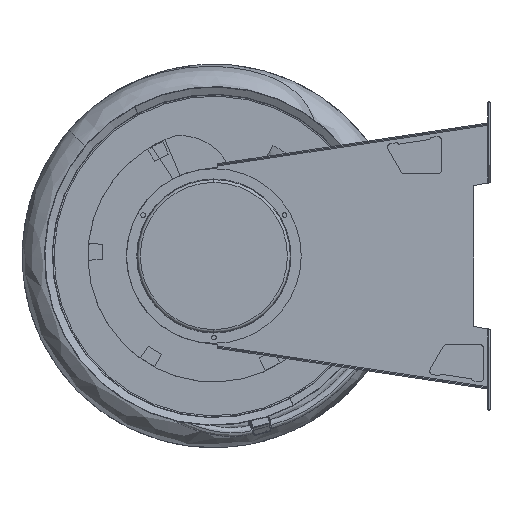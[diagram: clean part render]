
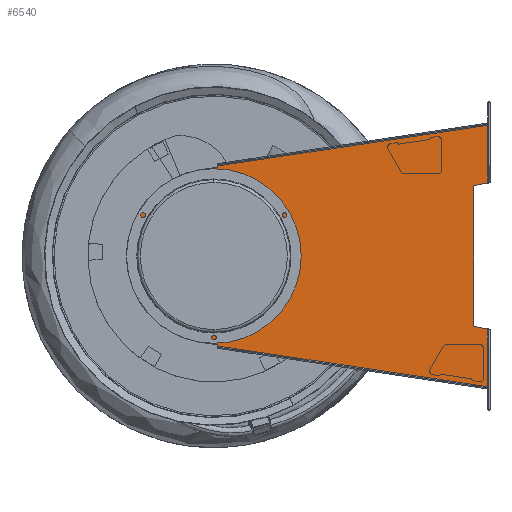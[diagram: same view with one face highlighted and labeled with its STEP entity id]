
A CAD part, left-side view. The second image highlights one B-rep face of the part: STEP entity #6540.
In plain terms, the highlighted planar face has unit normal (-1, 0, 0) as drawn and (1, 0, 0) by its records, which use the part's own axes.
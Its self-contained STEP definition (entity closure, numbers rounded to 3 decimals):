
#4440=DIRECTION('',(0.,0.,-1.));
#4441=VECTOR('',#4440,250.);
#4442=CARTESIAN_POINT('',(2.,-461.142,125.));
#4443=LINE('',#4442,#4441);
#4468=CARTESIAN_POINT('',(2.,0.,0.));
#4469=DIRECTION('',(-1.,0.,0.));
#4470=DIRECTION('',(0.,-1.,0.));
#4471=AXIS2_PLACEMENT_3D('',#4468,#4469,#4470);
#4476=CARTESIAN_POINT('',(2.,0.,0.));
#4477=DIRECTION('',(1.,0.,0.));
#4478=DIRECTION('',(0.,-1.,0.));
#4479=AXIS2_PLACEMENT_3D('',#4476,#4477,#4478);
#4484=DIRECTION('',(0.,-0.989,-0.149));
#4485=VECTOR('',#4484,3.105);
#4486=CARTESIAN_POINT('',(2.,23.07,-153.273));
#4487=LINE('',#4486,#4485);
#4491=DIRECTION('',(0.,-0.989,-0.149));
#4492=VECTOR('',#4491,6.895);
#4493=CARTESIAN_POINT('',(2.,20.,-153.736));
#4494=LINE('',#4493,#4492);
#4498=DIRECTION('',(0.,-0.989,-0.149));
#4499=VECTOR('',#4498,20.342);
#4500=CARTESIAN_POINT('',(2.,13.182,-154.762));
#4501=LINE('',#4500,#4499);
#4505=CARTESIAN_POINT('',(2.,-21.767,-160.022));
#4506=DIRECTION('',(-1.,0.,0.));
#4507=DIRECTION('',(0.,0.989,0.149));
#4508=AXIS2_PLACEMENT_3D('',#4505,#4506,#4507);
#4513=DIRECTION('',(0.,0.989,0.149));
#4514=VECTOR('',#4513,3.853);
#4515=CARTESIAN_POINT('',(2.,-486.,-231.92));
#4516=LINE('',#4515,#4514);
#4520=DIRECTION('',(0.,0.985,0.174));
#4521=VECTOR('',#4520,25.242);
#4522=CARTESIAN_POINT('',(2.,-486.,-129.383));
#4523=LINE('',#4522,#4521);
#4527=DIRECTION('',(0.,0.985,-0.174));
#4528=VECTOR('',#4527,25.242);
#4529=CARTESIAN_POINT('',(2.,-486.,129.383));
#4530=LINE('',#4529,#4528);
#4534=DIRECTION('',(0.,0.989,-0.149));
#4535=VECTOR('',#4534,3.853);
#4536=CARTESIAN_POINT('',(2.,-486.,231.92));
#4537=LINE('',#4536,#4535);
#4541=CARTESIAN_POINT('',(2.,-21.767,160.022));
#4542=DIRECTION('',(1.,0.,0.));
#4543=DIRECTION('',(0.,0.989,-0.149));
#4544=AXIS2_PLACEMENT_3D('',#4541,#4542,#4543);
#4549=DIRECTION('',(0.,-0.989,0.149));
#4550=VECTOR('',#4549,20.342);
#4551=CARTESIAN_POINT('',(2.,13.182,154.762));
#4552=LINE('',#4551,#4550);
#4556=DIRECTION('',(0.,-0.989,0.149));
#4557=VECTOR('',#4556,6.895);
#4558=CARTESIAN_POINT('',(2.,20.,153.736));
#4559=LINE('',#4558,#4557);
#4563=DIRECTION('',(0.,-0.989,0.149));
#4564=VECTOR('',#4563,3.105);
#4565=CARTESIAN_POINT('',(2.,23.07,153.273));
#4566=LINE('',#4565,#4564);
#4592=CARTESIAN_POINT('',(2.,0.,0.));
#4593=DIRECTION('',(1.,0.,0.));
#4594=DIRECTION('',(0.,0.149,-0.989));
#4595=AXIS2_PLACEMENT_3D('',#4592,#4593,#4594);
#4852=CARTESIAN_POINT('',(2.,-6.769,-159.787));
#4876=DIRECTION('',(0.,-0.989,-0.149));
#4877=VECTOR('',#4876,480.777);
#4878=CARTESIAN_POINT('',(2.,-6.769,-159.787));
#4879=LINE('',#4878,#4877);
#4978=DIRECTION('',(0.,0.,1.));
#4979=VECTOR('',#4978,102.537);
#4980=CARTESIAN_POINT('',(2.,-486.,-231.92));
#4981=LINE('',#4980,#4979);
#5542=CARTESIAN_POINT('',(2.,-6.769,159.787));
#5559=DIRECTION('',(0.,-0.989,0.149));
#5560=VECTOR('',#5559,480.777);
#5561=CARTESIAN_POINT('',(2.,-6.769,159.787));
#5562=LINE('',#5561,#5560);
#5756=DIRECTION('',(0.,0.,-1.));
#5757=VECTOR('',#5756,102.537);
#5758=CARTESIAN_POINT('',(2.,-486.,231.92));
#5759=LINE('',#5758,#5757);
#6156=CARTESIAN_POINT('',(2.,-33.,0.));
#6157=CARTESIAN_POINT('',(2.,33.,0.));
#6158=VERTEX_POINT('',#6156);
#6159=VERTEX_POINT('',#6157);
#6161=CARTESIAN_POINT('',(2.,23.07,153.273));
#6163=VERTEX_POINT('',#6161);
#6180=CARTESIAN_POINT('',(2.,-486.,231.92));
#6181=CARTESIAN_POINT('',(2.,-482.19,231.347));
#6182=VERTEX_POINT('',#6180);
#6183=VERTEX_POINT('',#6181);
#6234=CARTESIAN_POINT('',(2.,-486.,129.383));
#6235=VERTEX_POINT('',#6234);
#6237=CARTESIAN_POINT('',(2.,23.07,-153.273));
#6239=VERTEX_POINT('',#6237);
#6256=CARTESIAN_POINT('',(2.,-486.,-231.92));
#6257=CARTESIAN_POINT('',(2.,-482.19,-231.347));
#6258=VERTEX_POINT('',#6256);
#6259=VERTEX_POINT('',#6257);
#6297=CARTESIAN_POINT('',(2.,-486.,-129.383));
#6298=VERTEX_POINT('',#6297);
#6303=CARTESIAN_POINT('',(2.,-461.142,125.));
#6304=VERTEX_POINT('',#6303);
#6309=CARTESIAN_POINT('',(2.,-461.142,-125.));
#6310=VERTEX_POINT('',#6309);
#6319=CARTESIAN_POINT('',(2.,20.,153.736));
#6320=CARTESIAN_POINT('',(2.,13.182,154.762));
#6321=VERTEX_POINT('',#6319);
#6322=VERTEX_POINT('',#6320);
#6328=VERTEX_POINT('',#5542);
#6337=CARTESIAN_POINT('',(2.,20.,-153.736));
#6338=CARTESIAN_POINT('',(2.,13.182,-154.762));
#6339=VERTEX_POINT('',#6337);
#6340=VERTEX_POINT('',#6338);
#6346=VERTEX_POINT('',#4852);
#6365=CARTESIAN_POINT('',(2.,-6.934,157.79));
#6366=VERTEX_POINT('',#6365);
#6369=CARTESIAN_POINT('',(2.,-6.934,-157.79));
#6370=VERTEX_POINT('',#6369);
#6492=CARTESIAN_POINT('',(2.,0.,0.));
#6493=DIRECTION('',(1.,0.,0.));
#6494=DIRECTION('',(0.,0.,-1.));
#6495=AXIS2_PLACEMENT_3D('',#6492,#6493,#6494);
#6496=PLANE('',#6495);
#6498=ORIENTED_EDGE('',*,*,#6497,.F.);
#6500=ORIENTED_EDGE('',*,*,#6499,.T.);
#6502=ORIENTED_EDGE('',*,*,#6501,.T.);
#6504=ORIENTED_EDGE('',*,*,#6503,.T.);
#6506=ORIENTED_EDGE('',*,*,#6505,.T.);
#6508=ORIENTED_EDGE('',*,*,#6507,.T.);
#6510=ORIENTED_EDGE('',*,*,#6509,.F.);
#6512=ORIENTED_EDGE('',*,*,#6511,.T.);
#6514=ORIENTED_EDGE('',*,*,#6513,.T.);
#6515=ORIENTED_EDGE('',*,*,#6482,.F.);
#6517=ORIENTED_EDGE('',*,*,#6516,.F.);
#6519=ORIENTED_EDGE('',*,*,#6518,.F.);
#6521=ORIENTED_EDGE('',*,*,#6520,.T.);
#6523=ORIENTED_EDGE('',*,*,#6522,.F.);
#6525=ORIENTED_EDGE('',*,*,#6524,.F.);
#6527=ORIENTED_EDGE('',*,*,#6526,.F.);
#6529=ORIENTED_EDGE('',*,*,#6528,.F.);
#6531=ORIENTED_EDGE('',*,*,#6530,.F.);
#6532=EDGE_LOOP('',(#6498,#6500,#6502,#6504,#6506,#6508,#6510,#6512,#6514,#6515,
#6517,#6519,#6521,#6523,#6525,#6527,#6529,#6531));
#6533=FACE_OUTER_BOUND('',#6532,.F.);
#6535=ORIENTED_EDGE('',*,*,#6534,.F.);
#6537=ORIENTED_EDGE('',*,*,#6536,.T.);
#6538=EDGE_LOOP('',(#6535,#6537));
#6539=FACE_BOUND('',#6538,.F.);
#4472=CIRCLE('',#4471,33.);
#4480=CIRCLE('',#4479,33.);
#4509=CIRCLE('',#4508,15.);
#4545=CIRCLE('',#4544,15.);
#4596=CIRCLE('',#4595,155.);
#6482=EDGE_CURVE('',#6304,#6310,#4443,.T.);
#6497=EDGE_CURVE('',#6239,#6163,#4596,.T.);
#6499=EDGE_CURVE('',#6239,#6339,#4487,.T.);
#6501=EDGE_CURVE('',#6339,#6340,#4494,.T.);
#6503=EDGE_CURVE('',#6340,#6370,#4501,.T.);
#6505=EDGE_CURVE('',#6370,#6346,#4509,.T.);
#6507=EDGE_CURVE('',#6346,#6259,#4879,.T.);
#6509=EDGE_CURVE('',#6258,#6259,#4516,.T.);
#6511=EDGE_CURVE('',#6258,#6298,#4981,.T.);
#6513=EDGE_CURVE('',#6298,#6310,#4523,.T.);
#6516=EDGE_CURVE('',#6235,#6304,#4530,.T.);
#6518=EDGE_CURVE('',#6182,#6235,#5759,.T.);
#6520=EDGE_CURVE('',#6182,#6183,#4537,.T.);
#6522=EDGE_CURVE('',#6328,#6183,#5562,.T.);
#6524=EDGE_CURVE('',#6366,#6328,#4545,.T.);
#6526=EDGE_CURVE('',#6322,#6366,#4552,.T.);
#6528=EDGE_CURVE('',#6321,#6322,#4559,.T.);
#6530=EDGE_CURVE('',#6163,#6321,#4566,.T.);
#6534=EDGE_CURVE('',#6158,#6159,#4472,.T.);
#6536=EDGE_CURVE('',#6158,#6159,#4480,.T.);
#6540=ADVANCED_FACE('',(#6533,#6539),#6496,.T.);
